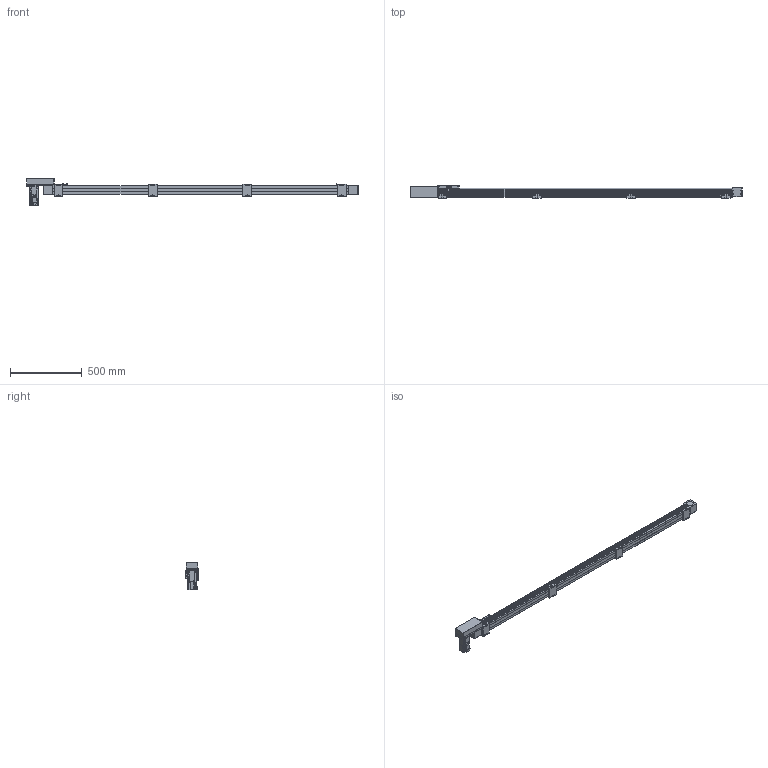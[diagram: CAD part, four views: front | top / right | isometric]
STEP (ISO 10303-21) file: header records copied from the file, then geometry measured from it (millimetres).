
FILE_DESCRIPTION(/* description */ ('STEP AP214'),/* implementation_level */ '2;1');
FILE_NAME(/* name */ 'SK60-P13-S1900-R-T40-C1-N(0)',/* time_stamp */ '2023-04-06T04:28:05+02:00',/* author */ ('License CC BY-ND 4.0'),/* organization */ ('CADENAS'),/* preprocessor_version */ 'ST-DEVELOPER v19.3',/* originating_system */ 'PARTsolutions',/* authorisation */ ' ');
FILE_SCHEMA (('AUTOMOTIVE_DESIGN {1 0 10303 214 3 1 1}'));
Length unit declared in the file: millimetre
Products named in the file (10): SK60-P13-S1900-R-T40-C1-N(0); PSC140-sensor; SK60-S450_seat; SK60-S450-BL-C1_slider; SK60_body3; SK60_body6; SK60-BL_body2; T40-p1; SK60-R_fb; SK60-S1900-R-C1_body
Assembly tree (18 placements, depth 2):
  SK60-P13-S1900-R-T40-C1-N(0)
    PSC140-sensor  x3
    SK60-S450_seat  x4
    SK60-S450-BL-C1_slider
    SK60_body3  x3
    SK60_body6  x2
    SK60-BL_body2  x2
    T40-p1
    SK60-R_fb
    SK60-S1900-R-C1_body
Bounding box: 2320.5 x 90 x 189.7 mm (x, y, z)
Volume: 8666807.7 mm3; surface area: 1036063.9 mm2
Topology: 18 solids, 18 shells, 898 faces, 2244 edges, 1477 vertices
Faces by surface type: plane 572, cylinder 294, cone 30, torus 2
Full cylindrical faces by diameter (mm): 2.8 x3, 3.3 x4, 4 x2, 4.5 x30, 4.6 x3, 4.917 x24, 5 x6, 5.478 x4, 5.5 x27, 6.5 x8, 7 x2, 8 x4, 8.5 x4, 9.988 x4, 10 x16, 14 x1, 47 x3, 50 x2
Entity records: 18671 total; most frequent: DIRECTION 3188, CARTESIAN_POINT 3152, ORIENTED_EDGE 2940, EDGE_CURVE 1470, AXIS2_PLACEMENT_3D 1070, LINE 1048, VECTOR 1048, VERTEX_POINT 1034
